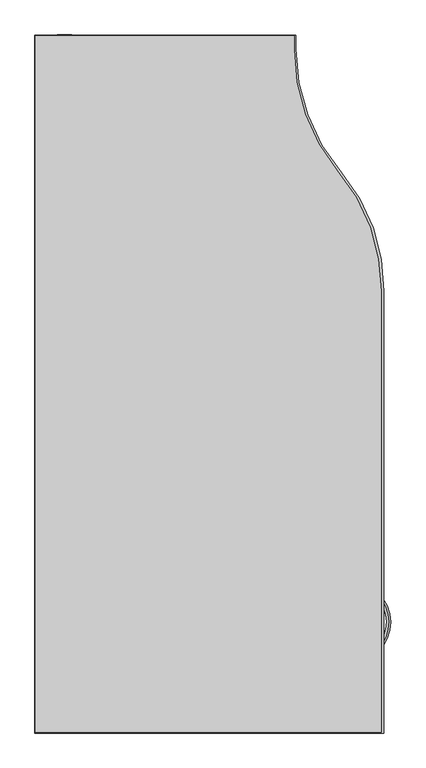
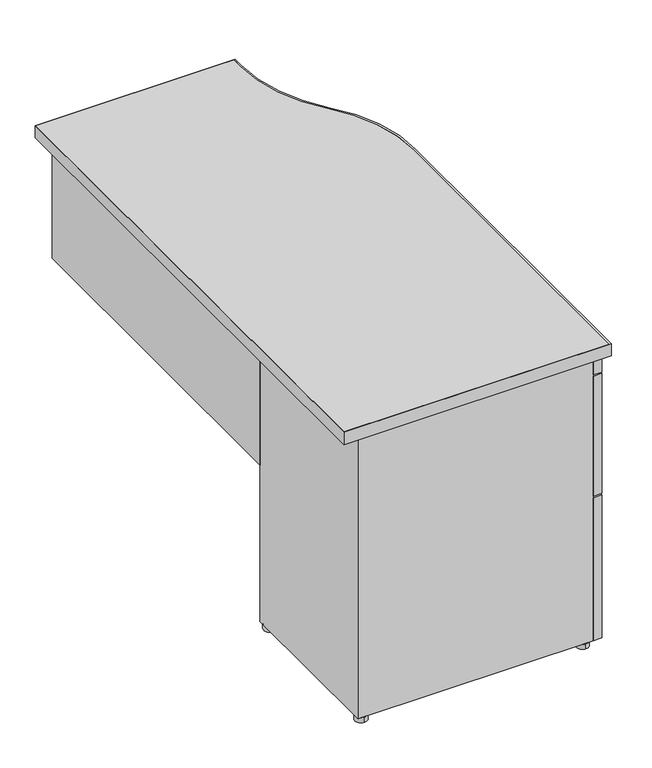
"""IFC4 building model written with IfcOpenShell, lengths in millimetres: furniture geometry, Steelcase - Kick Freestanding - Desk - Single Pedestal Transition Return - Partial Modesty Panel : 18D x 48W - Left - File/File."""

from ifc_helpers import new_model, si_unit, point, frame, frame_2d, origin, origin_with_axes, place, context, project, spatial, polyline, circle_curve, ellipse_curve, trimmed, segment, composite_curve, outline, extrude, source, transform, mapped, element, save
from ifc_brep_helpers import plane_surface, cylinder_surface, revolved_surface, extruded_surface, advanced_brep


def furniture_021f35cc(model_context):
    return source(origin(), model_context, "Body", "SolidModel", [
        advanced_brep(
        [(2760.5907209, -1621.6132511, 586.4818798), (2760.5907209, -1621.6132511, 569.2783404), (2759.9247042, -1522.4632386, 586.4818798), (2759.9247042, -1522.4632386, 569.2783404)],
        [
            (0, 1, ellipse_curve(frame((2760.5907209, -1621.6132511, 577.8801101), z_axis=(-0.7327226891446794, -0.6805273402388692, 0.0), x_axis=(0.0, 0.0, -1.0)), 8.6017697, 3.6448177)),
            (1, 0, ellipse_curve(frame((2760.5907209, -1621.6132511, 577.8801101), z_axis=(-0.7327226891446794, -0.6805273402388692, 0.0), x_axis=(0.0, 0.0, -1.0)), 8.6017697, 3.6448177)),
            (2, 3, ellipse_curve(frame((2759.9247042, -1522.4632386, 577.8801101), z_axis=(-0.7417987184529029, 0.670622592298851, 0.0), x_axis=(0.0, 0.0, -1.0)), 8.6017697, 3.6448177)),
            (3, 2, ellipse_curve(frame((2759.9247042, -1522.4632386, 577.8801101), z_axis=(-0.7417987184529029, 0.670622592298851, 0.0), x_axis=(0.0, 0.0, -1.0)), 8.6017697, 3.6448177)),
            (3, 1, circle_curve(frame((2714.8305889, -1572.3433908, 569.2783404), z_axis=(0.0, 0.0, -1.0), x_axis=(0.6805273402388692, -0.7327226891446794, 0.0)), 67.2421655)),
            (0, 2, circle_curve(frame((2714.8305889, -1572.3433908, 586.4818798), z_axis=(0.0, 0.0, 1.0), x_axis=(0.6805273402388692, -0.7327226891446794, 0.0)), 67.2421655)),
        ],
        [
            plane_surface(frame((2761.3542952, -1622.4353903, 0.0), z_axis=(-0.7327226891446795, -0.6805273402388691, 0.0), x_axis=(0.0, 0.0, 1.0))),
            plane_surface(frame((2760.6771651, -1521.6309157, 0.0), z_axis=(-0.7417987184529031, 0.6706225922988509, 0.0), x_axis=(0.0, 0.0, 1.0))),
            revolved_surface(trimmed(ellipse_curve(frame((2760.5907209, -1621.6132511, 577.8801101), z_axis=(-0.7327226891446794, -0.6805273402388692, 0.0), x_axis=(0.0, 0.0, -1.0)), 8.6017697, 3.6448177), [point((2760.5907209, -1621.6132511, 586.4818798))], [point((2760.5907209, -1621.6132511, 569.2783404))], True, "CARTESIAN"), (2714.8305889, -1572.3433908, 0.0), (0.0, 0.0, 1.0)),
            revolved_surface(trimmed(ellipse_curve(frame((2760.5907209, -1621.6132511, 577.8801101), z_axis=(-0.7327226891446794, -0.6805273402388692, 0.0), x_axis=(0.0, 0.0, -1.0)), 8.6017697, 3.6448177), [point((2760.5907209, -1621.6132511, 569.2783404))], [point((2760.5907209, -1621.6132511, 586.4818798))], True, "CARTESIAN"), (2714.8305889, -1572.3433908, 0.0), (0.0, 0.0, 1.0)),
        ],
        [
            (0, [[1, 2]]),
            (1, [[3, 4]]),
            (2, [[5, -1, 6, -4]]),
            (3, [[-6, -2, -5, -3]]),
        ],
    ),
        advanced_brep(
        [(2760.5907209, -1621.6132511, 293.5881298), (2760.5907209, -1621.6132511, 276.3845904), (2759.9247042, -1522.4632386, 293.5881298), (2759.9247042, -1522.4632386, 276.3845904)],
        [
            (0, 1, ellipse_curve(frame((2760.5907209, -1621.6132511, 284.9863601), z_axis=(-0.7327226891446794, -0.6805273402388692, 0.0), x_axis=(0.0, 0.0, -1.0)), 8.6017697, 3.6448177)),
            (1, 0, ellipse_curve(frame((2760.5907209, -1621.6132511, 284.9863601), z_axis=(-0.7327226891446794, -0.6805273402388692, 0.0), x_axis=(0.0, 0.0, -1.0)), 8.6017697, 3.6448177)),
            (2, 3, ellipse_curve(frame((2759.9247042, -1522.4632386, 284.9863601), z_axis=(-0.7417987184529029, 0.670622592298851, 0.0), x_axis=(0.0, 0.0, -1.0)), 8.6017697, 3.6448177)),
            (3, 2, ellipse_curve(frame((2759.9247042, -1522.4632386, 284.9863601), z_axis=(-0.7417987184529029, 0.670622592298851, 0.0), x_axis=(0.0, 0.0, -1.0)), 8.6017697, 3.6448177)),
            (3, 1, circle_curve(frame((2714.8305889, -1572.3433908, 276.3845904), z_axis=(0.0, 0.0, -1.0), x_axis=(0.6805273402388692, -0.7327226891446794, 0.0)), 67.2421655)),
            (0, 2, circle_curve(frame((2714.8305889, -1572.3433908, 293.5881298), z_axis=(0.0, 0.0, 1.0), x_axis=(0.6805273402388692, -0.7327226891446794, 0.0)), 67.2421655)),
        ],
        [
            plane_surface(frame((2761.3542952, -1622.4353903, 0.0), z_axis=(-0.7327226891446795, -0.6805273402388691, 0.0), x_axis=(0.0, 0.0, 1.0))),
            plane_surface(frame((2760.6771651, -1521.6309157, 0.0), z_axis=(-0.7417987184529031, 0.6706225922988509, 0.0), x_axis=(0.0, 0.0, 1.0))),
            revolved_surface(trimmed(ellipse_curve(frame((2760.5907209, -1621.6132511, 284.9863601), z_axis=(-0.7327226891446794, -0.6805273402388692, 0.0), x_axis=(0.0, 0.0, -1.0)), 8.6017697, 3.6448177), [point((2760.5907209, -1621.6132511, 293.5881298))], [point((2760.5907209, -1621.6132511, 276.3845904))], True, "CARTESIAN"), (2714.8305889, -1572.3433908, 0.0), (0.0, 0.0, 1.0)),
            revolved_surface(trimmed(ellipse_curve(frame((2760.5907209, -1621.6132511, 284.9863601), z_axis=(-0.7327226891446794, -0.6805273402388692, 0.0), x_axis=(0.0, 0.0, -1.0)), 8.6017697, 3.6448177), [point((2760.5907209, -1621.6132511, 276.3845904))], [point((2760.5907209, -1621.6132511, 293.5881298))], True, "CARTESIAN"), (2714.8305889, -1572.3433908, 0.0), (0.0, 0.0, 1.0)),
        ],
        [
            (0, [[1, 2]]),
            (1, [[3, 4]]),
            (2, [[5, -1, 6, -4]]),
            (3, [[-6, -2, -5, -3]]),
        ],
    ),
        advanced_brep(
        [(2762.8455764, -1429.0380273, 671.1566635), (2762.8455764, -1408.7180273, 671.1566635), (2759.7468248, -1429.0380273, 671.1566635), (2759.7468248, -1408.7180273, 671.1566635)],
        [
            (0, 1, circle_curve(frame((2762.8455764, -1418.8780273, 671.1566635), z_axis=(1.0, 0.0, 0.0), x_axis=(0.0, 1.0, 0.0)), 10.16)),
            (1, 0, circle_curve(frame((2762.8455764, -1418.8780273, 671.1566635), z_axis=(1.0, 0.0, 0.0), x_axis=(0.0, 1.0, 0.0)), 10.16)),
            (2, 3, circle_curve(frame((2759.7468248, -1418.8780273, 671.1566635), z_axis=(-1.0, 0.0, 0.0), x_axis=(0.0, 1.0, 0.0)), 10.16)),
            (3, 2, circle_curve(frame((2759.7468248, -1418.8780273, 671.1566635), z_axis=(-1.0, 0.0, 0.0), x_axis=(0.0, 1.0, 0.0)), 10.16)),
            (0, 2),
            (3, 1),
        ],
        [
            plane_surface(frame((2762.8455764, -1408.7180273, 671.1566635), z_axis=(1.0, 0.0, 0.0), x_axis=(0.0, 0.0, 1.0))),
            plane_surface(frame((2759.7468248, -1408.7180273, 671.1566635), z_axis=(-1.0, 0.0, 0.0), x_axis=(0.0, 0.0, -1.0))),
            cylinder_surface(frame((2759.7468248, -1418.8780273, 671.1566635), z_axis=(1.0, 0.0, 0.0), x_axis=(0.0, 1.0, 0.0)), 10.16),
        ],
        [
            (0, [[1, 2]]),
            (1, [[3, 4]]),
            (2, [[-1, 5, -4, 6]]),
            (2, [[-2, -6, -3, -5]]),
        ],
    ),
        advanced_brep(
        [(2762.8455764, -1620.2140492, 589.4466513), (2762.8455764, -1620.2140492, 566.5866513), (2759.7468248, -1620.2140492, 589.4466513), (2759.7468248, -1620.2140492, 566.5866513)],
        [
            (0, 1, ellipse_curve(frame((2762.8455764, -1620.2140492, 578.0166513), z_axis=(1.0, 0.0, 0.0), x_axis=(0.0, 0.0, -1.0)), 11.43, 8.0054005)),
            (1, 0, ellipse_curve(frame((2762.8455764, -1620.2140492, 578.0166513), z_axis=(1.0, 0.0, 0.0), x_axis=(0.0, 0.0, -1.0)), 11.43, 8.0054005)),
            (2, 3, ellipse_curve(frame((2759.7468248, -1620.2140492, 578.0166513), z_axis=(-1.0, 0.0, 0.0), x_axis=(0.0, 0.0, -1.0)), 11.43, 8.0054005)),
            (3, 2, ellipse_curve(frame((2759.7468248, -1620.2140492, 578.0166513), z_axis=(-1.0, 0.0, 0.0), x_axis=(0.0, 0.0, -1.0)), 11.43, 8.0054005)),
            (0, 2),
            (3, 1),
        ],
        [
            plane_surface(frame((2762.8455764, -1408.7180273, 671.1566635), z_axis=(1.0, 0.0, 0.0), x_axis=(0.0, 0.0, 1.0))),
            plane_surface(frame((2759.7468248, -1408.7180273, 671.1566635), z_axis=(-1.0, 0.0, 0.0), x_axis=(0.0, 0.0, -1.0))),
            extruded_surface(trimmed(ellipse_curve(frame((2755.7590248, -1620.2140492, 578.0166513), z_axis=(1.0, 0.0, 0.0), x_axis=(0.0, 0.0, -1.0)), 11.43, 8.0054005), [point((2755.7590248, -1620.2140492, 589.4466513))], [point((2755.7590248, -1620.2140492, 566.5866513))], True, "CARTESIAN"), (3.098751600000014, 0.0, 0.0), 3.098751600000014),
            extruded_surface(trimmed(ellipse_curve(frame((2755.7590248, -1620.2140492, 578.0166513), z_axis=(1.0, 0.0, 0.0), x_axis=(0.0, 0.0, -1.0)), 11.43, 8.0054005), [point((2755.7590248, -1620.2140492, 566.5866513))], [point((2755.7590248, -1620.2140492, 589.4466513))], True, "CARTESIAN"), (3.098751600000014, 0.0, 0.0), 3.098751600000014),
        ],
        [
            (0, [[1, 2]]),
            (1, [[3, 4]]),
            (2, [[-1, 5, -4, 6]]),
            (3, [[-2, -6, -3, -5]]),
        ],
    ),
        advanced_brep(
        [(2762.8455764, -1522.8852323, 589.4466513), (2762.8455764, -1522.8852323, 566.5866513), (2759.7468248, -1522.8852323, 589.4466513), (2759.7468248, -1522.8852323, 566.5866513)],
        [
            (0, 1, ellipse_curve(frame((2762.8455764, -1522.8852323, 578.0166513), z_axis=(1.0, 0.0, 0.0), x_axis=(0.0, 0.0, -1.0)), 11.43, 8.0054005)),
            (1, 0, ellipse_curve(frame((2762.8455764, -1522.8852323, 578.0166513), z_axis=(1.0, 0.0, 0.0), x_axis=(0.0, 0.0, -1.0)), 11.43, 8.0054005)),
            (2, 3, ellipse_curve(frame((2759.7468248, -1522.8852323, 578.0166513), z_axis=(-1.0, 0.0, 0.0), x_axis=(0.0, 0.0, -1.0)), 11.43, 8.0054005)),
            (3, 2, ellipse_curve(frame((2759.7468248, -1522.8852323, 578.0166513), z_axis=(-1.0, 0.0, 0.0), x_axis=(0.0, 0.0, -1.0)), 11.43, 8.0054005)),
            (0, 2),
            (3, 1),
        ],
        [
            plane_surface(frame((2762.8455764, -1408.7180273, 671.1566635), z_axis=(1.0, 0.0, 0.0), x_axis=(0.0, 0.0, 1.0))),
            plane_surface(frame((2759.7468248, -1408.7180273, 671.1566635), z_axis=(-1.0, 0.0, 0.0), x_axis=(0.0, 0.0, -1.0))),
            extruded_surface(trimmed(ellipse_curve(frame((2755.7590248, -1522.8852323, 578.0166513), z_axis=(1.0, 0.0, 0.0), x_axis=(0.0, 0.0, -1.0)), 11.43, 8.0054005), [point((2755.7590248, -1522.8852323, 589.4466513))], [point((2755.7590248, -1522.8852323, 566.5866513))], True, "CARTESIAN"), (3.098751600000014, 0.0, 0.0), 3.098751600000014),
            extruded_surface(trimmed(ellipse_curve(frame((2755.7590248, -1522.8852323, 578.0166513), z_axis=(1.0, 0.0, 0.0), x_axis=(0.0, 0.0, -1.0)), 11.43, 8.0054005), [point((2755.7590248, -1522.8852323, 566.5866513))], [point((2755.7590248, -1522.8852323, 589.4466513))], True, "CARTESIAN"), (3.098751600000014, 0.0, 0.0), 3.098751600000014),
        ],
        [
            (0, [[1, 2]]),
            (1, [[3, 4]]),
            (2, [[-1, 5, -4, 6]]),
            (3, [[-2, -6, -3, -5]]),
        ],
    ),
        advanced_brep(
        [(2762.8455764, -1618.9790775, 296.5864566), (2762.8455764, -1618.9790775, 273.7264566), (2759.7468248, -1618.9790775, 296.5864566), (2759.7468248, -1618.9790775, 273.7264566)],
        [
            (0, 1, ellipse_curve(frame((2762.8455764, -1618.9790775, 285.1564566), z_axis=(1.0, 0.0, 0.0), x_axis=(0.0, 0.0, -1.0)), 11.43, 8.0054005)),
            (1, 0, ellipse_curve(frame((2762.8455764, -1618.9790775, 285.1564566), z_axis=(1.0, 0.0, 0.0), x_axis=(0.0, 0.0, -1.0)), 11.43, 8.0054005)),
            (2, 3, ellipse_curve(frame((2759.7468248, -1618.9790775, 285.1564566), z_axis=(-1.0, 0.0, 0.0), x_axis=(0.0, 0.0, -1.0)), 11.43, 8.0054005)),
            (3, 2, ellipse_curve(frame((2759.7468248, -1618.9790775, 285.1564566), z_axis=(-1.0, 0.0, 0.0), x_axis=(0.0, 0.0, -1.0)), 11.43, 8.0054005)),
            (0, 2),
            (3, 1),
        ],
        [
            plane_surface(frame((2762.8455764, -1408.7180273, 671.1566635), z_axis=(1.0, 0.0, 0.0), x_axis=(0.0, 0.0, 1.0))),
            plane_surface(frame((2759.7468248, -1408.7180273, 671.1566635), z_axis=(-1.0, 0.0, 0.0), x_axis=(0.0, 0.0, -1.0))),
            extruded_surface(trimmed(ellipse_curve(frame((2755.7590248, -1618.9790775, 285.1564566), z_axis=(1.0, 0.0, 0.0), x_axis=(0.0, 0.0, -1.0)), 11.43, 8.0054005), [point((2755.7590248, -1618.9790775, 296.5864566))], [point((2755.7590248, -1618.9790775, 273.7264566))], True, "CARTESIAN"), (3.098751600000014, 0.0, 0.0), 3.098751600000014),
            extruded_surface(trimmed(ellipse_curve(frame((2755.7590248, -1618.9790775, 285.1564566), z_axis=(1.0, 0.0, 0.0), x_axis=(0.0, 0.0, -1.0)), 11.43, 8.0054005), [point((2755.7590248, -1618.9790775, 273.7264566))], [point((2755.7590248, -1618.9790775, 296.5864566))], True, "CARTESIAN"), (3.098751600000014, 0.0, 0.0), 3.098751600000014),
        ],
        [
            (0, [[1, 2]]),
            (1, [[3, 4]]),
            (2, [[-1, 5, -4, 6]]),
            (3, [[-2, -6, -3, -5]]),
        ],
    ),
        advanced_brep(
        [(2762.8455764, -1521.6502606, 296.5864566), (2762.8455764, -1521.6502606, 273.7264566), (2759.7468248, -1521.6502606, 296.5864566), (2759.7468248, -1521.6502606, 273.7264566)],
        [
            (0, 1, ellipse_curve(frame((2762.8455764, -1521.6502606, 285.1564566), z_axis=(1.0, 0.0, 0.0), x_axis=(0.0, 0.0, -1.0)), 11.43, 8.0054005)),
            (1, 0, ellipse_curve(frame((2762.8455764, -1521.6502606, 285.1564566), z_axis=(1.0, 0.0, 0.0), x_axis=(0.0, 0.0, -1.0)), 11.43, 8.0054005)),
            (2, 3, ellipse_curve(frame((2759.7468248, -1521.6502606, 285.1564566), z_axis=(-1.0, 0.0, 0.0), x_axis=(0.0, 0.0, -1.0)), 11.43, 8.0054005)),
            (3, 2, ellipse_curve(frame((2759.7468248, -1521.6502606, 285.1564566), z_axis=(-1.0, 0.0, 0.0), x_axis=(0.0, 0.0, -1.0)), 11.43, 8.0054005)),
            (0, 2),
            (3, 1),
        ],
        [
            plane_surface(frame((2762.8455764, -1408.7180273, 671.1566635), z_axis=(1.0, 0.0, 0.0), x_axis=(0.0, 0.0, 1.0))),
            plane_surface(frame((2759.7468248, -1408.7180273, 671.1566635), z_axis=(-1.0, 0.0, 0.0), x_axis=(0.0, 0.0, -1.0))),
            extruded_surface(trimmed(ellipse_curve(frame((2755.7590248, -1521.6502606, 285.1564566), z_axis=(1.0, 0.0, 0.0), x_axis=(0.0, 0.0, -1.0)), 11.43, 8.0054005), [point((2755.7590248, -1521.6502606, 296.5864566))], [point((2755.7590248, -1521.6502606, 273.7264566))], True, "CARTESIAN"), (3.098751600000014, 0.0, 0.0), 3.098751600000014),
            extruded_surface(trimmed(ellipse_curve(frame((2755.7590248, -1521.6502606, 285.1564566), z_axis=(1.0, 0.0, 0.0), x_axis=(0.0, 0.0, -1.0)), 11.43, 8.0054005), [point((2755.7590248, -1521.6502606, 273.7264566))], [point((2755.7590248, -1521.6502606, 296.5864566))], True, "CARTESIAN"), (3.098751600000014, 0.0, 0.0), 3.098751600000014),
        ],
        [
            (0, [[1, 2]]),
            (1, [[3, 4]]),
            (2, [[-1, 5, -4, 6]]),
            (3, [[-2, -6, -3, -5]]),
        ],
    ),
        extrude(outline(polyline([(2759.7468248, -1367.7776054), (2759.7468248, -1752.7145982), (2739.8077764, -1752.7145982), (2739.8077764, -1367.7776054), (2759.7468248, -1367.7776054)])), frame((0.0, 0.0, 360.6545895), z_axis=(0.0, 0.0, 1.0), x_axis=(1.0, 0.0, 0.0)), (0.0, 0.0, 1.0), 288.9250242),
        extrude(outline(polyline([(2759.7468248, -1367.7776054), (2759.7468248, -1752.7145982), (2739.8077764, -1752.7145982), (2739.8077764, -1367.7776054), (2759.7468248, -1367.7776054)])), frame((0.0, 0.0, 12.7), z_axis=(0.0, 0.0, 1.0), x_axis=(1.0, 0.0, 0.0)), (0.0, 0.0, 1.0), 344.7796016),
        extrude(outline(polyline([(2759.7468248, -1367.7776054), (2759.7468248, -1752.7145982), (2739.8077764, -1752.7145982), (2739.8077764, -1367.7776054), (2759.7468248, -1367.7776054)])), frame((0.0, 0.0, 652.7545653), z_axis=(0.0, 0.0, 1.0), x_axis=(1.0, 0.0, 0.0)), (0.0, 0.0, 1.0), 40.6400339),
        extrude(outline(composite_curve([segment(trimmed(circle_curve(frame_2d((2217.7074425, -1740.1382652)), 13.97), [point((2217.7074425, -1754.1082652))], [point((2217.7074425, -1726.1682652))], False, "CARTESIAN"), True, "CONTINUOUS"), segment(trimmed(circle_curve(frame_2d((2217.7074425, -1740.1382652)), 13.97), [point((2217.7074425, -1726.1682652))], [point((2217.7074425, -1754.1082652))], False, "CARTESIAN"), True, "CONTINUOUS")], self_intersect=False)), origin_with_axes(), (0.0, 0.0, 1.0), 12.446),
        extrude(outline(composite_curve([segment(trimmed(circle_curve(frame_2d((2722.6594425, -1740.1382652)), 13.97), [point((2722.6594425, -1754.1082652))], [point((2722.6594425, -1726.1682652))], False, "CARTESIAN"), True, "CONTINUOUS"), segment(trimmed(circle_curve(frame_2d((2722.6594425, -1740.1382652)), 13.97), [point((2722.6594425, -1726.1682652))], [point((2722.6594425, -1754.1082652))], False, "CARTESIAN"), True, "CONTINUOUS")], self_intersect=False)), origin_with_axes(), (0.0, 0.0, 1.0), 12.446),
        extrude(outline(composite_curve([segment(trimmed(circle_curve(frame_2d((2217.7074425, -1380.4776054)), 13.97), [point((2217.7074425, -1394.4476054))], [point((2217.7074425, -1366.5076054))], False, "CARTESIAN"), True, "CONTINUOUS"), segment(trimmed(circle_curve(frame_2d((2217.7074425, -1380.4776054)), 13.97), [point((2217.7074425, -1366.5076054))], [point((2217.7074425, -1394.4476054))], False, "CARTESIAN"), True, "CONTINUOUS")], self_intersect=False)), origin_with_axes(), (0.0, 0.0, 1.0), 12.446),
        extrude(outline(composite_curve([segment(trimmed(circle_curve(frame_2d((2723.4604252, -1380.4776054)), 12.7), [point((2723.4604252, -1393.1776054))], [point((2723.4604252, -1367.7776054))], False, "CARTESIAN"), True, "CONTINUOUS"), segment(trimmed(circle_curve(frame_2d((2723.4604252, -1380.4776054)), 12.7), [point((2723.4604252, -1367.7776054))], [point((2723.4604252, -1393.1776054))], False, "CARTESIAN"), True, "CONTINUOUS")], self_intersect=False)), origin_with_axes(), (0.0, 0.0, 1.0), 12.446),
        extrude(outline(polyline([(2203.2328248, -1367.7776054), (2739.8077764, -1367.7776054), (2739.8077764, -1752.7145982), (2203.2328248, -1752.7145982), (2203.2328248, -1367.7776054)]), holes=[polyline([(2228.6328241, -1387.6149846), (2228.6328241, -1732.8771996), (2719.2338142, -1732.8771996), (2719.2338142, -1387.6149846), (2228.6328241, -1387.6149846)])]), frame((0.0, 0.0, 12.446), z_axis=(0.0, 0.0, 1.0), x_axis=(1.0, 0.0, 0.0)), (0.0, 0.0, 1.0), 682.498),
        extrude(outline(composite_curve([segment(polyline([(2616.8176592, -547.8051152), (2616.8176592, -572.1320079)]), True, "CONTINUOUS"), segment(trimmed(circle_curve(frame_2d((2941.6463505, -574.5942763)), 324.8380233), [point((2616.8176592, -572.1320079))], [point((2692.5587903, -783.1011797))], True, "CARTESIAN"), True, "CONTINUOUS"), segment(trimmed(circle_curve(frame_2d((2440.4841513, -994.1085152)), 328.7335079), [point((2692.5587903, -783.1011797))], [point((2769.2176592, -994.1085152))], False, "CARTESIAN"), True, "CONTINUOUS"), segment(polyline([(2769.2176592, -994.1085152), (2769.2176592, -1764.2619332), (2164.8500425, -1764.2619332), (2164.8500425, -547.8051152), (2616.8176592, -547.8051152)]), True, "CONTINUOUS")], self_intersect=False)), frame((0.0, 0.0, 694.944), z_axis=(0.0, 0.0, 1.0), x_axis=(1.0, 0.0, 0.0)), (0.0, 0.0, 1.0), 28.956),
        extrude(outline(composite_curve([segment(polyline([(2619.7894255, -546.8145152), (2619.7894255, -571.0836731)]), True, "CONTINUOUS"), segment(trimmed(circle_curve(frame_2d((2951.3460478, -571.0836731)), 331.5566223), [point((2619.7894255, -571.0836731))], [point((2699.261298, -786.4509703))], True, "CARTESIAN"), True, "CONTINUOUS"), segment(trimmed(circle_curve(frame_2d((2463.6949436, -987.7058619)), 309.8306613), [point((2699.261298, -786.4509703))], [point((2773.4594425, -994.1085152))], False, "CARTESIAN"), True, "CONTINUOUS"), segment(polyline([(2773.4594425, -994.1085152), (2773.4594425, -1766.0145152), (2163.8594425, -1766.0145152), (2163.8594425, -546.8145152), (2619.7894255, -546.8145152)]), True, "CONTINUOUS")], self_intersect=False), holes=[composite_curve([segment(polyline([(2616.8176592, -547.8051152), (2164.8500425, -547.8051152), (2164.8500425, -1764.2619332), (2769.2176592, -1764.2619332), (2769.2176592, -994.1085152)]), True, "CONTINUOUS"), segment(trimmed(circle_curve(frame_2d((2440.4841513, -994.1085152)), 328.7335079), [point((2769.2176592, -994.1085152))], [point((2692.5587903, -783.1011797))], True, "CARTESIAN"), True, "CONTINUOUS"), segment(trimmed(circle_curve(frame_2d((2941.6463505, -574.5942763)), 324.8380233), [point((2692.5587903, -783.1011797))], [point((2616.8176592, -572.1320079))], False, "CARTESIAN"), True, "CONTINUOUS"), segment(polyline([(2616.8176592, -572.1320079), (2616.8176592, -547.8051152)]), True, "CONTINUOUS")], self_intersect=False)]), frame((0.0, 0.0, 694.944), z_axis=(0.0, 0.0, 1.0), x_axis=(1.0, 0.0, 0.0)), (0.0, 0.0, 1.0), 28.956),
        extrude(outline(polyline([(2228.6328241, -546.0525152), (2228.6328241, -1367.7776054), (2203.2328248, -1367.7776054), (2203.2328248, -546.0525152), (2228.6328241, -546.0525152)])), frame((0.0, 0.0, 390.144), z_axis=(0.0, 0.0, 1.0), x_axis=(1.0, 0.0, 0.0)), (0.0, 0.0, 1.0), 304.8),
    ])


if __name__ == "__main__":
    model = new_model("IFC4")
    model_context = context("Model", 3, world=origin())
    ifc_project = project(units=[si_unit("LENGTHUNIT", "METRE", prefix="MILLI")], contexts=[model_context])
    site = spatial("IfcSite", under=ifc_project)
    building = spatial("IfcBuilding", under=site)
    placement = place(None, origin())
    furniture_shape = furniture_021f35cc(model_context)
    element("IfcFurniture", 1, ObjectType="Steelcase - Kick Freestanding - Desk - Single Pedestal Transition Return - Partial Modesty Panel : 18D x 48W - Left - File/File", at=placement, inside=building, context=model_context, shape_type="MappedRepresentation", body=[
        mapped(furniture_shape, transform((0.0, 0.0, 0.0), x_axis=(1.0, 0.0, 0.0), y_axis=(0.0, 1.0, 0.0), z_axis=(0.0, 0.0, 1.0))),
    ])
    save(model, "model.ifc")
